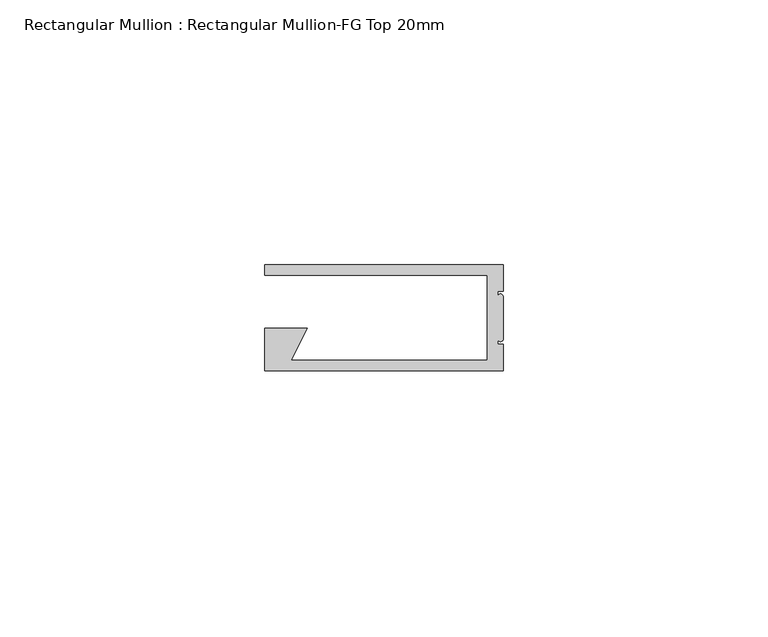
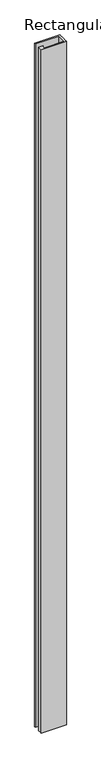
"""IFC4 building model written with IfcOpenShell, lengths in millimetres: member geometry, Rectangular Mullion : Rectangular Mullion-FG Top 20mm."""

from ifc_helpers import new_model, si_unit, frame, origin, place, context, project, spatial, circle_curve, source, transform, mapped, element, save
from ifc_brep_helpers import plane_surface, cylinder_surface, advanced_brep


def rectangular_mullion_rectangular_mullion_fg_top_20mm_c4bc6695(model_context):
    return source(origin(), model_context, "Body", "AdvancedBrep", [
        advanced_brep(
        [(0.0, -5.0, 0.0), (0.0, 0.0, 0.0), (-45.0, 0.0, 0.0), (-45.0, -2.0, 0.0), (-3.0, -2.0, 0.0), (-3.0, -18.0, 0.0), (-40.0, -18.0, 0.0), (-37.0, -12.0, 0.0), (-45.0, -12.0, 0.0), (-45.0, -18.0, 0.0), (-45.0, -20.0, 0.0), (0.0, -20.0, 0.0), (0.0, -15.0, 0.0), (-1.0, -15.0, 0.0), (-1.0, -14.0, 0.0), (0.0, -14.0, 0.0), (0.0, -6.0, 0.0), (-1.0, -6.0, 0.0), (-1.0, -5.0, 0.0), (0.0, -5.0, -1290.0), (-1.0, -5.0, -1290.0), (-1.0, -6.0, -1290.0), (0.0, -6.0, -1290.0), (0.0, -14.0, -1290.0), (-1.0, -14.0, -1290.0), (-1.0, -15.0, -1290.0), (0.0, -15.0, -1290.0), (0.0, -20.0, -1290.0), (-45.0, -20.0, -1290.0), (-45.0, -18.0, -1290.0), (-45.0, -12.0, -1290.0), (-37.0, -12.0, -1290.0), (-40.0, -18.0, -1290.0), (-3.0, -18.0, -1290.0), (-3.0, -2.0, -1290.0), (-45.0, -2.0, -1290.0), (-45.0, 0.0, -1290.0), (0.0, 0.0, -1290.0)],
        [
            (0, 1),
            (1, 2),
            (2, 3),
            (3, 4),
            (4, 5),
            (5, 6),
            (6, 7),
            (7, 8),
            (8, 9),
            (9, 10),
            (10, 11),
            (11, 12),
            (12, 13),
            (13, 14),
            (14, 15, circle_curve(frame((-0.5, -14.0, 0.0), z_axis=(0.0, 0.0, 1.0), x_axis=(1.0, 0.0, 0.0)), 0.5)),
            (15, 16),
            (16, 17, circle_curve(frame((-0.5, -6.0, 0.0), z_axis=(0.0, 0.0, 1.0), x_axis=(1.0, 0.0, 0.0)), 0.5)),
            (17, 18),
            (18, 0),
            (19, 20),
            (20, 21),
            (21, 22, circle_curve(frame((-0.5, -6.0, -1290.0), z_axis=(0.0, 0.0, -1.0), x_axis=(1.0, 0.0, 0.0)), 0.5)),
            (22, 23),
            (23, 24, circle_curve(frame((-0.5, -14.0, -1290.0), z_axis=(0.0, 0.0, -1.0), x_axis=(1.0, 0.0, 0.0)), 0.5)),
            (24, 25),
            (25, 26),
            (26, 27),
            (27, 28),
            (28, 29),
            (29, 30),
            (30, 31),
            (31, 32),
            (32, 33),
            (33, 34),
            (34, 35),
            (35, 36),
            (36, 37),
            (37, 19),
            (0, 19),
            (37, 1),
            (36, 2),
            (35, 3),
            (34, 4),
            (33, 5),
            (32, 6),
            (31, 7),
            (30, 8),
            (29, 9),
            (28, 10),
            (27, 11),
            (26, 12),
            (25, 13),
            (24, 14),
            (23, 15),
            (22, 16),
            (21, 17),
            (20, 18),
        ],
        [
            plane_surface(frame((0.0, -49.244289, 0.0), z_axis=(0.0, 0.0, 1.0), x_axis=(-1.0, 0.0, 0.0))),
            plane_surface(frame((0.0, -49.244289, -1290.0), z_axis=(0.0, 0.0, -1.0), x_axis=(-1.0, 0.0, 0.0))),
            plane_surface(frame((0.0, -5.0, 0.0), z_axis=(1.0, 0.0, 0.0), x_axis=(0.0, 0.0, -1.0))),
            plane_surface(frame((0.0, 0.0, 0.0), z_axis=(0.0, 1.0, 0.0), x_axis=(0.0, 0.0, -1.0))),
            plane_surface(frame((-45.0, 0.0, 0.0), z_axis=(-1.0, 0.0, 0.0), x_axis=(0.0, 0.0, -1.0))),
            plane_surface(frame((-45.0, -2.0, 0.0), z_axis=(0.0, -1.0, 0.0), x_axis=(0.0, 0.0, -1.0))),
            plane_surface(frame((-3.0, -2.0, 0.0), z_axis=(-1.0, 0.0, 0.0), x_axis=(0.0, 0.0, -1.0))),
            plane_surface(frame((-3.0, -18.0, 0.0), z_axis=(0.0, 1.0, 0.0), x_axis=(0.0, 0.0, -1.0))),
            plane_surface(frame((-40.0, -18.0, 0.0), z_axis=(0.8944271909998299, -0.4472135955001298, 0.0), x_axis=(0.0, 0.0, -1.0))),
            plane_surface(frame((-37.0, -12.0, 0.0), z_axis=(0.0, 1.0, 0.0), x_axis=(0.0, 0.0, -1.0))),
            plane_surface(frame((-45.0, -12.0, 0.0), z_axis=(-1.0, 0.0, 0.0), x_axis=(0.0, 0.0, -1.0))),
            plane_surface(frame((-45.0, -18.0, 0.0), z_axis=(-1.0, 0.0, 0.0), x_axis=(0.0, 0.0, -1.0))),
            plane_surface(frame((-45.0, -20.0, 0.0), z_axis=(0.0, -1.0, 0.0), x_axis=(0.0, 0.0, -1.0))),
            plane_surface(frame((0.0, -20.0, 0.0), z_axis=(1.0, 0.0, 0.0), x_axis=(0.0, 0.0, -1.0))),
            plane_surface(frame((0.0, -15.0, 0.0), z_axis=(0.0, 1.0, 0.0), x_axis=(0.0, 0.0, -1.0))),
            plane_surface(frame((-1.0, -15.0, 0.0), z_axis=(1.0, 0.0, 0.0), x_axis=(0.0, 0.0, -1.0))),
            cylinder_surface(frame((-0.5, -14.0, 0.0), z_axis=(0.0, 0.0, 1.0), x_axis=(1.0, 0.0, 0.0)), 0.5),
            plane_surface(frame((0.0, -14.0, 0.0), z_axis=(1.0, 0.0, 0.0), x_axis=(0.0, 0.0, -1.0))),
            cylinder_surface(frame((-0.5, -6.0, 0.0), z_axis=(0.0, 0.0, 1.0), x_axis=(1.0, 0.0, 0.0)), 0.5),
            plane_surface(frame((-1.0, -6.0, 0.0), z_axis=(1.0, 0.0, 0.0), x_axis=(0.0, 0.0, -1.0))),
            plane_surface(frame((-1.0, -5.0, 0.0), z_axis=(0.0, -1.0, 0.0), x_axis=(0.0, 0.0, -1.0))),
        ],
        [
            (0, [[1, 2, 3, 4, 5, 6, 7, 8, 9, 10, 11, 12, 13, 14, 15, 16, 17, 18, 19]]),
            (1, [[20, 21, 22, 23, 24, 25, 26, 27, 28, 29, 30, 31, 32, 33, 34, 35, 36, 37, 38]]),
            (2, [[-1, 39, -38, 40]]),
            (3, [[-2, -40, -37, 41]]),
            (4, [[-3, -41, -36, 42]]),
            (5, [[-4, -42, -35, 43]]),
            (6, [[-5, -43, -34, 44]]),
            (7, [[-6, -44, -33, 45]]),
            (8, [[-7, -45, -32, 46]]),
            (9, [[-8, -46, -31, 47]]),
            (10, [[-9, -47, -30, 48]]),
            (11, [[-10, -48, -29, 49]]),
            (12, [[-11, -49, -28, 50]]),
            (13, [[-12, -50, -27, 51]]),
            (14, [[-13, -51, -26, 52]]),
            (15, [[-14, -52, -25, 53]]),
            (16, [[-15, -53, -24, 54]]),
            (17, [[-16, -54, -23, 55]]),
            (18, [[-17, -55, -22, 56]]),
            (19, [[-18, -56, -21, 57]]),
            (20, [[-19, -57, -20, -39]]),
        ],
    ),
    ])


if __name__ == "__main__":
    model = new_model("IFC4")
    model_context = context("Model", 3, world=origin())
    ifc_project = project(units=[si_unit("LENGTHUNIT", "METRE", prefix="MILLI")], contexts=[model_context])
    site = spatial("IfcSite", under=ifc_project)
    building = spatial("IfcBuilding", under=site)
    placement = place(None, origin())
    rectangular_mullion_rectangular_mullion_fg_top_20mm_shape = rectangular_mullion_rectangular_mullion_fg_top_20mm_c4bc6695(model_context)
    element("IfcMember", 1, ObjectType="Rectangular Mullion : Rectangular Mullion-FG Top 20mm", at=placement, inside=building, context=model_context, shape_type="MappedRepresentation", body=[
        mapped(rectangular_mullion_rectangular_mullion_fg_top_20mm_shape, transform((0.0, 0.0, 0.0), x_axis=(1.0, 0.0, 0.0), y_axis=(0.0, 1.0, 0.0), z_axis=(0.0, 0.0, 1.0))),
    ])
    save(model, "model.ifc")
